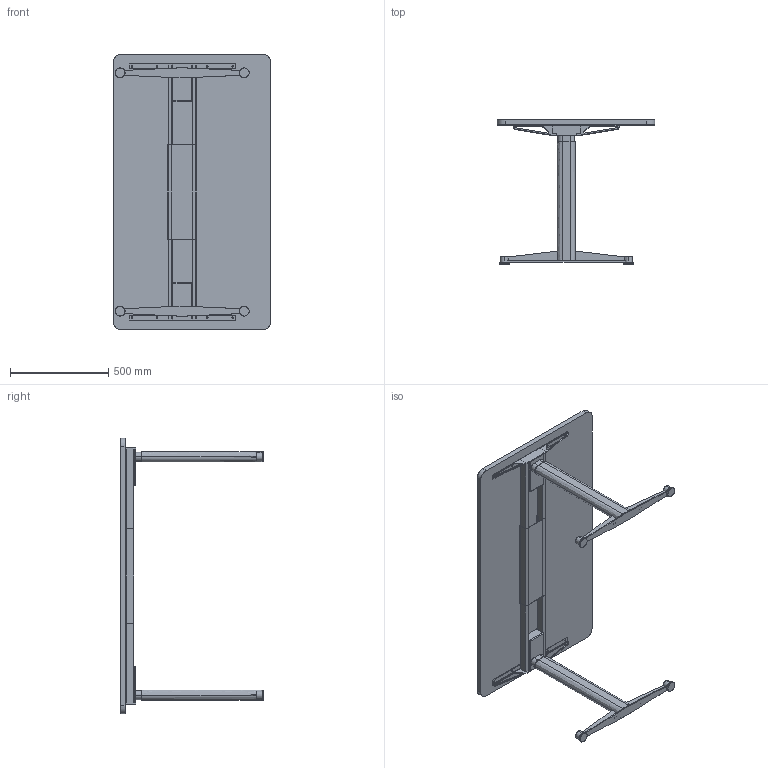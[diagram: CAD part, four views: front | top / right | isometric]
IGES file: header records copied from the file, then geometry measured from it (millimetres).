
Start section: SolidWorks IGES file using analytic representation for surfaces
Global section: file name: C:\Users\simone.cerana\OneDrive - Gruppo Tecno\Desktop\CHINA\DISEGNI DI SERIE\ASSIEMI LISTINO\AXIS LISTINO\AX1408ST.IGS; native system: SolidWorks 2024; preprocessor: SolidWorks 2024; author: simone.cerana; date: 260508.091452; units: millimetre
Bounding box: 800 x 729.39 x 1400 mm (x, y, z)
Surface area: 3421798.5 mm2 (no closed solid volume)
Topology: 0 solids, 0 shells, 290 faces, 4168 edges, 4164 vertices
Faces by surface type: bspline 162, revolution 128
